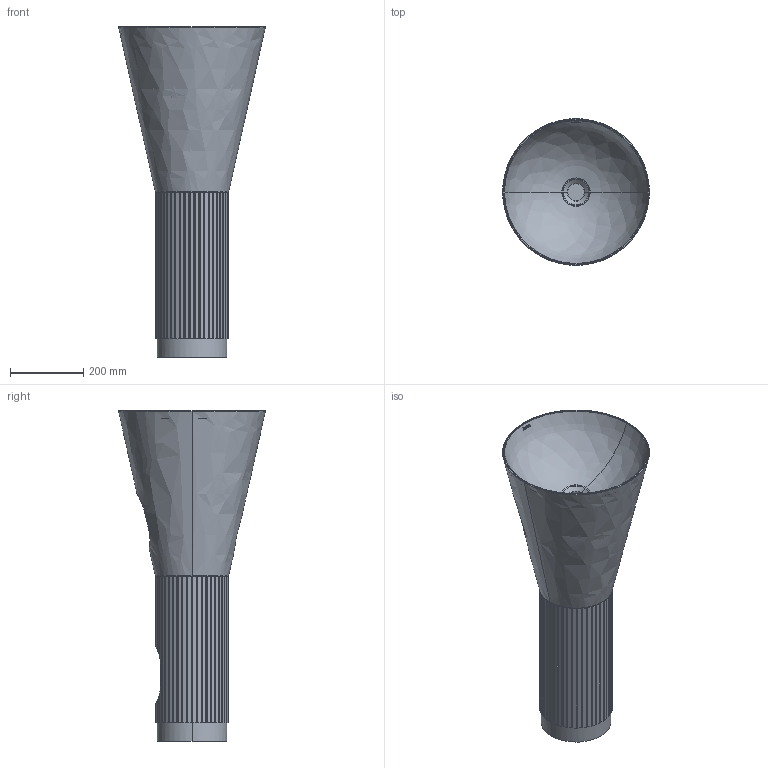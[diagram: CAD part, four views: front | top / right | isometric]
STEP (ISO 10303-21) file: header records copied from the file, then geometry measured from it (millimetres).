
FILE_DESCRIPTION(/* description */ (''),/* implementation_level */ '2;1');
FILE_NAME(/* name */ '8369_8370_8371_8372_8373_8374_MALAY_PEDESTAL',/* time_stamp */ '2025-03-31T10:08:09+02:00',/* author */ (''),/* organization */ (''),/* preprocessor_version */ 'ST-DEVELOPER v19.2',/* originating_system */ 'Rhino 8.17',/* authorisation */ '');
FILE_SCHEMA (('CONFIG_CONTROL_DESIGN'));
Length unit declared in the file: millimetre
Products named in the file (1): Document
Bounding box: 399.26 x 399.19 x 900 mm (x, y, z)
Volume: 5656035.7 mm3; surface area: 1869084.9 mm2
Topology: 8 solids, 8 shells, 421 faces, 1019 edges, 650 vertices
Faces by surface type: plane 308, bspline 72, cylinder 41
Entity records: 14484 total; most frequent: CARTESIAN_POINT 6408, ORIENTED_EDGE 2038, EDGE_CURVE 1019, DIRECTION 781, B_SPLINE_CURVE_WITH_KNOTS 759, VERTEX_POINT 650, AXIS2_PLACEMENT_3D 564, EDGE_LOOP 475
